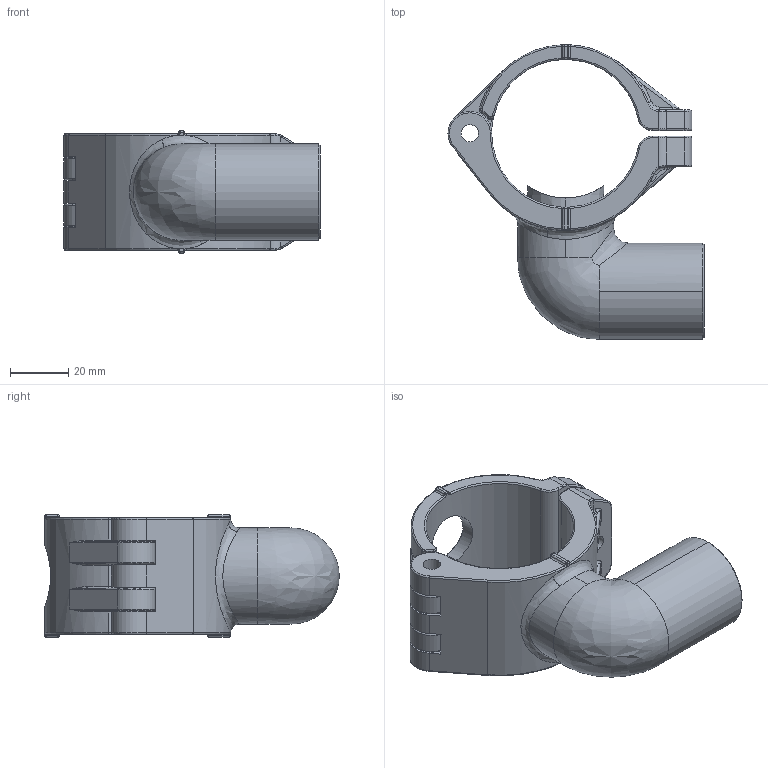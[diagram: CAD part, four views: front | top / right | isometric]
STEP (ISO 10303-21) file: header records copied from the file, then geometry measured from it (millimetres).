
FILE_DESCRIPTION(/* description */ (''),/* implementation_level */ '2;1');
FILE_NAME(/* name */ '5111_stp.stp',/* time_stamp */ '2025-06-20T11:24:40+08:00',/* author */ (''),/* organization */ (''),/* preprocessor_version */ 'ST-DEVELOPER v14',/* originating_system */ 'SIEMENS PLM Software NX 8.0',/* authorisation */ '');
FILE_SCHEMA (('AP203_CONFIGURATION_CONTROLLED_3D_DESIGN_OF_MECHANICAL_PARTS_AND_ASSEMBLIES_MIM_LF { 1 0 10303 403 2 1 2}'));
Length unit declared in the file: millimetre
Products named in the file (1): Admi144825784xbb
Bounding box: 87.9 x 101.1 x 42 mm (x, y, z)
Volume: 86693.5 mm3; surface area: 33556.3 mm2
Topology: 2 solids, 2 shells, 349 faces, 874 edges, 501 vertices
Faces by surface type: cylinder 122, torus 94, bspline 57, plane 48, sphere 16, cone 12
Entity records: 15413 total; most frequent: CARTESIAN_POINT 7355, DIRECTION 1724, ORIENTED_EDGE 1684, EDGE_CURVE 842, AXIS2_PLACEMENT_3D 756, VERTEX_POINT 501, CIRCLE 463, EDGE_LOOP 371
